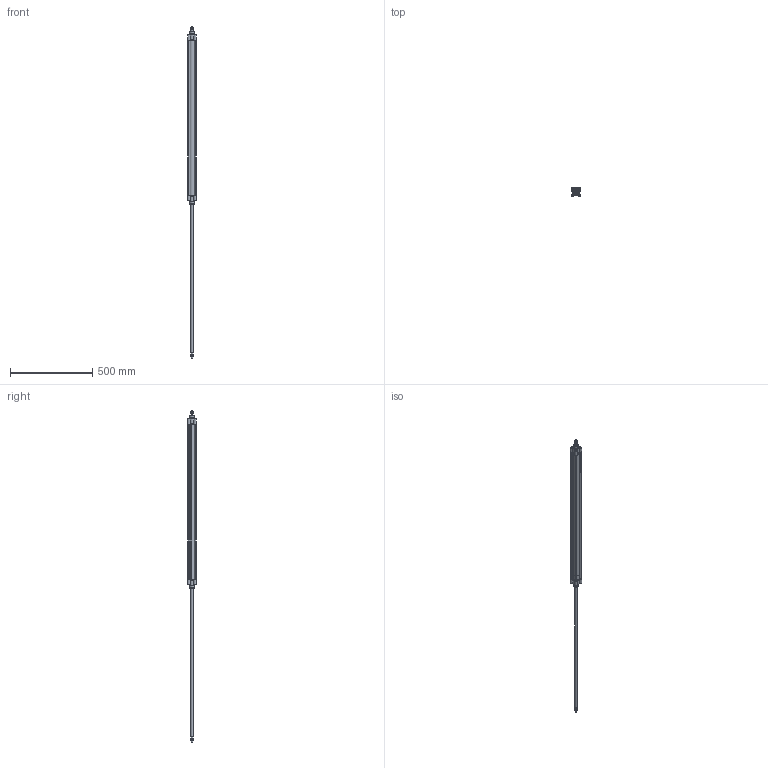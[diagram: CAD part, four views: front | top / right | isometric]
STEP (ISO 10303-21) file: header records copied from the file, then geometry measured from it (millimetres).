
FILE_DESCRIPTION((''),'2;1');
FILE_NAME('I:\Area Tecnica\Disegni\VARIE-3D\Componenti\ECOLIGHT\02\stp\139#_40_0900_02.iam.stp','2012-01-28T09:39:35',(''),(''),'Autodesk Inventor 2012','Autodesk Inventor 2012','');
FILE_SCHEMA(('AUTOMOTIVE_DESIGN { 1 0 10303 214 1 1 1 1 }'));
Length unit declared in the file: millimetre
Products named in the file (5): 139#_40_0900_02; CPL040_004-900; CPL040-001-01; CPL_40SP_0900; 1320_40_18F
Assembly tree (6 placements, depth 2):
  139#_40_0900_02
    CPL040_004-900
    CPL040-001-01  x2
    CPL_40SP_0900
    1320_40_18F  x2
Bounding box: 54 x 54 x 2013 mm (x, y, z)
Volume: 1190513.2 mm3; surface area: 645849 mm2
Topology: 6 solids, 6 shells, 351 faces, 860 edges, 564 vertices
Faces by surface type: plane 211, cylinder 98, cone 40, torus 2
Full cylindrical faces by diameter (mm): 5 x8, 5.5 x4, 8 x2, 10 x8, 10.5 x10, 10.8 x2, 11.6 x2, 12 x2, 15.5 x2, 16 x4, 30 x2, 35 x2, 40 x4
Entity records: 7104 total; most frequent: CARTESIAN_POINT 1295, DIRECTION 1162, ORIENTED_EDGE 1084, EDGE_CURVE 542, AXIS2_PLACEMENT_3D 413, VERTEX_POINT 380, VECTOR 336, LINE 336
